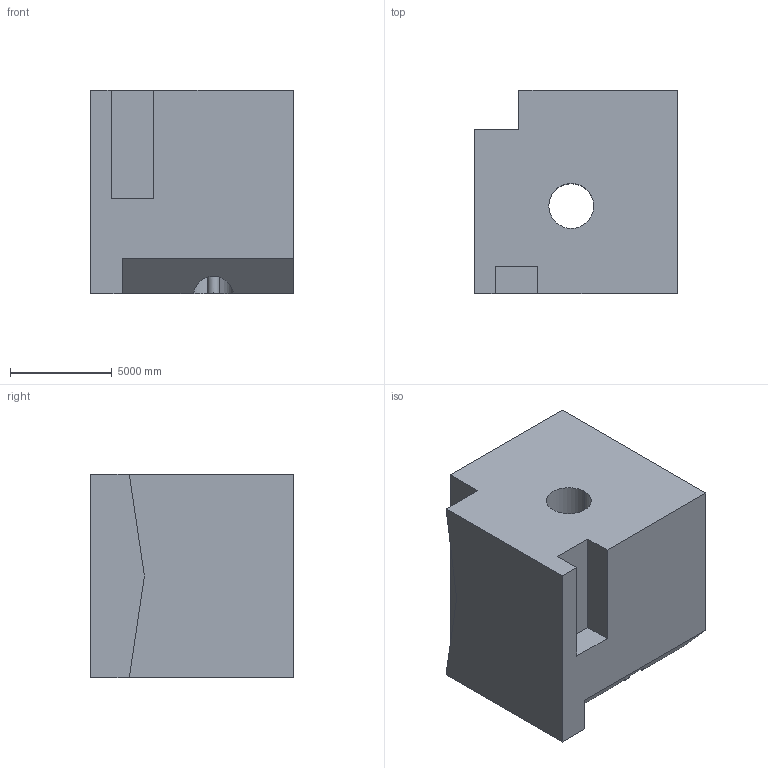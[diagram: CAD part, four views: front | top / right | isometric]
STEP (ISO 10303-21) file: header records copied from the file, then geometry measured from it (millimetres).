
FILE_DESCRIPTION (( 'STEP AP203' ), '1' );
FILE_NAME ('1779.STEP', '2022-08-19T12:49:01', ( 'user' ), ( '' ), 'SwSTEP 2.0', 'SolidWorks 2021', '' );
FILE_SCHEMA (( 'CONFIG_CONTROL_DESIGN' ));
Length unit declared in the file: centimetre
Products named in the file (1): 1779
Bounding box: 10000 x 10000 x 10000 mm (x, y, z)
Volume: 844311126407.9 mm3; surface area: 761613444.1 mm2
Topology: 1 solids, 1 shells, 37 faces, 99 edges, 66 vertices
Faces by surface type: plane 29, cylinder 8
Entity records: 1236 total; most frequent: CARTESIAN_POINT 209, ORIENTED_EDGE 198, DIRECTION 191, EDGE_CURVE 99, VECTOR 79, LINE 79, VERTEX_POINT 66, AXIS2_PLACEMENT_3D 56
